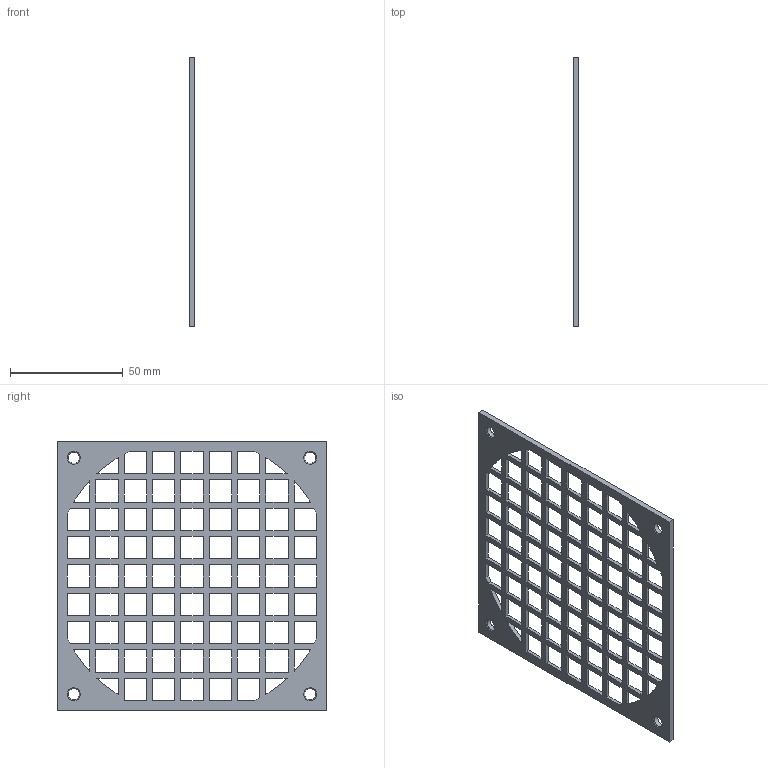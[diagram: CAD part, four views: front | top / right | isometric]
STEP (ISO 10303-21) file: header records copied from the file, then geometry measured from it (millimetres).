
FILE_DESCRIPTION(/* description */ (''),/* implementation_level */ '2;1');
FILE_NAME(/* name */ 'Fan Grid.stp',/* time_stamp */ '2026-06-08T20:38:29-05:00',/* author */ ('hardi'),/* organization */ (''),/* preprocessor_version */ 'ST-DEVELOPER v20.1',/* originating_system */ 'Autodesk Inventor 2026',/* authorisation */ '');
FILE_SCHEMA (('AUTOMOTIVE_DESIGN { 1 0 10303 214 3 1 1 }'));
Length unit declared in the file: millimetre
Products named in the file (1): Shoe dryer lower body
Bounding box: 2.5 x 119.6 x 119.6 mm (x, y, z)
Volume: 13999.1 mm3; surface area: 21156.8 mm2
Topology: 1 solids, 1 shells, 321 faces, 953 edges, 634 vertices
Faces by surface type: plane 298, cone 19, cylinder 4
Full cylindrical faces by diameter (mm): 5 x4
Entity records: 10903 total; most frequent: CARTESIAN_POINT 1969, ORIENTED_EDGE 1906, DIRECTION 1609, EDGE_CURVE 953, LINE 881, VECTOR 881, VERTEX_POINT 634, EDGE_LOOP 483
